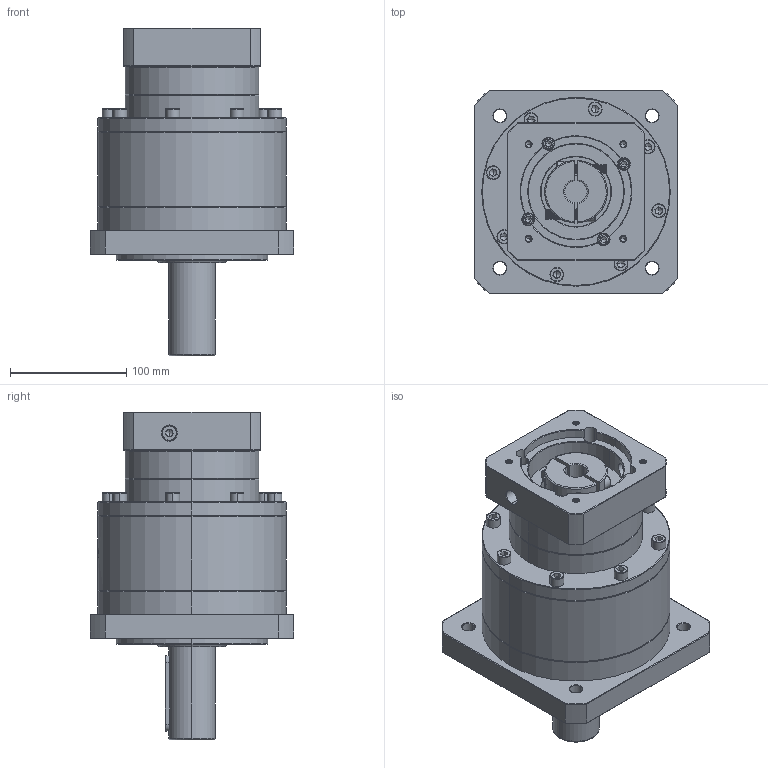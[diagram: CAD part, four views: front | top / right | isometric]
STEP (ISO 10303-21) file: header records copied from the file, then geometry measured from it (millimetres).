
FILE_DESCRIPTION (( 'STEP AP214' ), '1' );
FILE_NAME ('ZF160A-D40-L2-P2-19-95-115-M6.step', '2023-09-03T07:53:36', ( '' ), ( '' ), 'SwSTEP 2.0', 'SolidWorks 2016', '' );
FILE_SCHEMA (( 'AUTOMOTIVE_DESIGN' ));
Length unit declared in the file: millimetre
Products named in the file (1): ZF160A-D40-L2-P2-19-95-115-M6
Bounding box: 175 x 175 x 281.7 mm (x, y, z)
Volume: 3494832.7 mm3; surface area: 257980.5 mm2
Topology: 6 solids, 6 shells, 2442 faces, 6461 edges, 4142 vertices
Faces by surface type: plane 1119, cylinder 486, bspline 425, cone 374, torus 38
Entity records: 131825 total; most frequent: CARTESIAN_POINT 49671, ORIENTED_EDGE 12814, DIRECTION 9769, EDGE_CURVE 6407, VERTEX_POINT 4142, LINE 3383, VECTOR 3383, AXIS2_PLACEMENT_3D 3193
